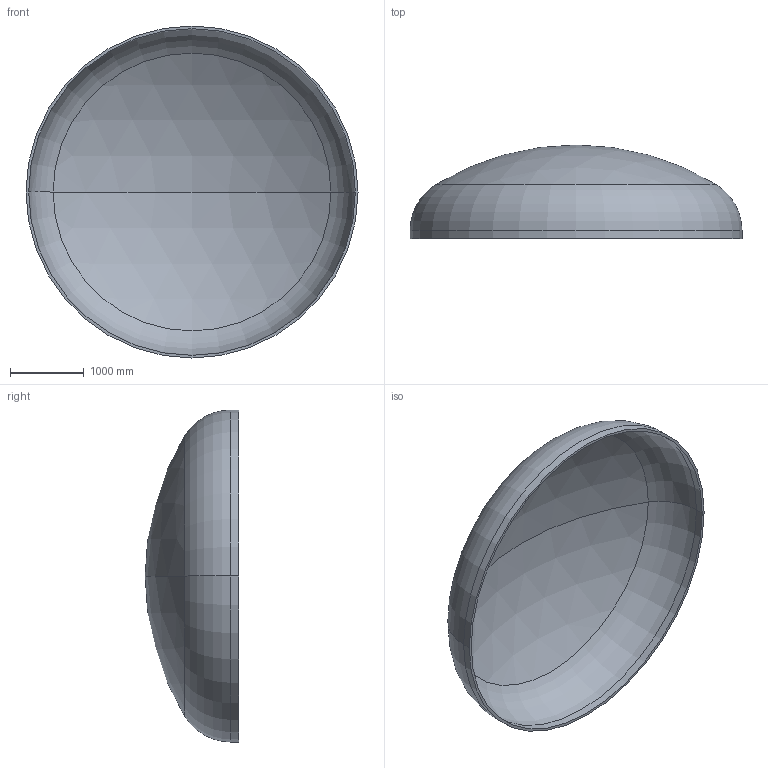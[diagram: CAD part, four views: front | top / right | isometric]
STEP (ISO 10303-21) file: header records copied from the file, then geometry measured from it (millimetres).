
FILE_DESCRIPTION (( 'STEP AP203' ), '1' );
FILE_NAME ('DIN 28013 Korbbogenform_-_Boden DIN 28013 - 4500 x 110 - I - s=36.step', '2016-07-01T23:21:10', ( '' ), ( '' ), 'SwSTEP 2.0', 'SolidWorks 2013', '' );
FILE_SCHEMA (( 'CONFIG_CONTROL_DESIGN' ));
Length unit declared in the file: millimetre
Products named in the file (1): DIN 28013 Korbbogenform_-_Boden DIN 28013 - 4500 x 110 - I - s=36
Bounding box: 4500 x 1269.78 x 4500 mm (x, y, z)
Volume: 840619341.1 mm3; surface area: 47208637.7 mm2
Topology: 1 solids, 1 shells, 13 faces, 24 edges, 14 vertices
Faces by surface type: torus 4, cylinder 4, sphere 4, plane 1
Entity records: 407 total; most frequent: DIRECTION 72, CARTESIAN_POINT 52, ORIENTED_EDGE 48, AXIS2_PLACEMENT_3D 34, EDGE_CURVE 24, CIRCLE 20, VERTEX_POINT 14, EDGE_LOOP 14
